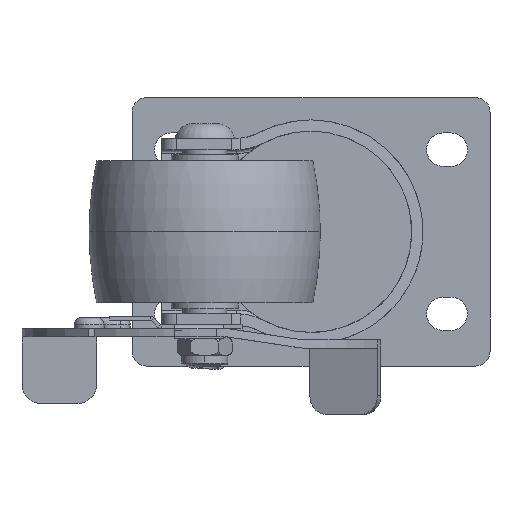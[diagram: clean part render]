
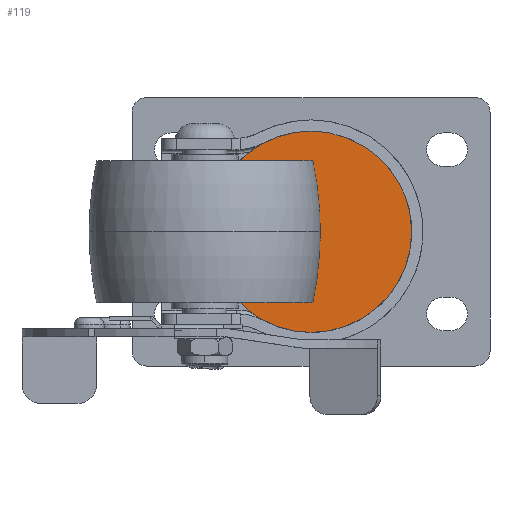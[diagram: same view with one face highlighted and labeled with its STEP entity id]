
A CAD part, front view. The second image highlights one B-rep face of the part: STEP entity #119.
In plain terms, the highlighted planar face has unit normal (0, -1, 0).
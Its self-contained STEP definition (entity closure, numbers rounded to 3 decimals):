
#119 = ADVANCED_FACE ( 'NONE', ( #2576 ), #17584, .F. ) ;
#172 = EDGE_LOOP ( 'NONE', ( #18753, #4957 ) ) ;
#178 = AXIS2_PLACEMENT_3D ( 'NONE', #1413, #15960, #12975 ) ;
#862 = AXIS2_PLACEMENT_3D ( 'NONE', #9010, #17517, #6011 ) ;
#910 = CARTESIAN_POINT ( 'NONE',  ( 0., 57., 27. ) ) ;
#1413 = CARTESIAN_POINT ( 'NONE',  ( 0., 57., 0. ) ) ;
#2541 = CIRCLE ( 'NONE', #862, 27. ) ;
#2576 = FACE_OUTER_BOUND ( 'NONE', #172, .T. ) ;
#3141 = AXIS2_PLACEMENT_3D ( 'NONE', #13296, #9152, #16306 ) ;
#4680 = VERTEX_POINT ( 'NONE', #910 ) ;
#4957 = ORIENTED_EDGE ( 'NONE', *, *, #12846, .F. ) ;
#6011 = DIRECTION ( 'NONE',  ( 0., 0., 1. ) ) ;
#9010 = CARTESIAN_POINT ( 'NONE',  ( 0., 57., 0. ) ) ;
#9152 = DIRECTION ( 'NONE',  ( 0., 1., 0. ) ) ;
#12332 = CARTESIAN_POINT ( 'NONE',  ( 0., 57., -27. ) ) ;
#12846 = EDGE_CURVE ( 'NONE', #4680, #17104, #2541, .T. ) ;
#12975 = DIRECTION ( 'NONE',  ( 0., 0., 1. ) ) ;
#13296 = CARTESIAN_POINT ( 'NONE',  ( 0., 57., 0. ) ) ;
#13333 = EDGE_CURVE ( 'NONE', #17104, #4680, #14066, .T. ) ;
#14066 = CIRCLE ( 'NONE', #178, 27. ) ;
#15960 = DIRECTION ( 'NONE',  ( 0., 1., 0. ) ) ;
#16306 = DIRECTION ( 'NONE',  ( 0., 0., 1. ) ) ;
#17104 = VERTEX_POINT ( 'NONE', #12332 ) ;
#17517 = DIRECTION ( 'NONE',  ( 0., 1., 0. ) ) ;
#17584 = PLANE ( 'NONE',  #3141 ) ;
#18753 = ORIENTED_EDGE ( 'NONE', *, *, #13333, .F. ) ;
